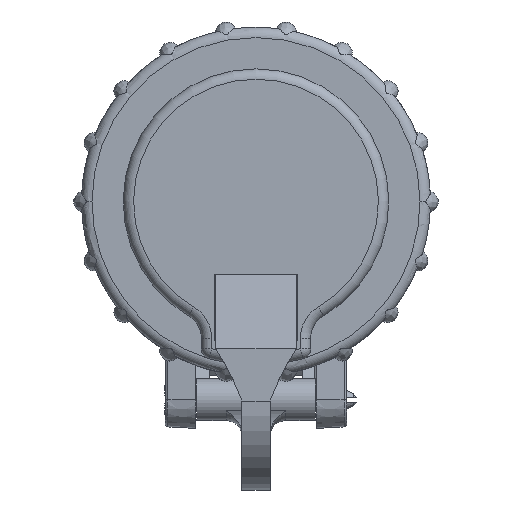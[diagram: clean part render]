
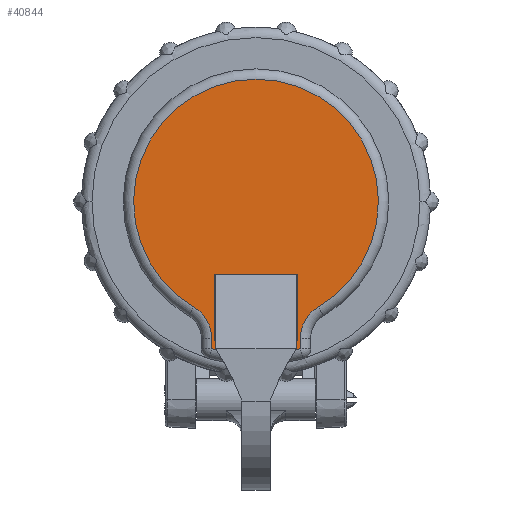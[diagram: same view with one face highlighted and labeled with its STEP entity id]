
A CAD part, top view. The second image highlights one B-rep face of the part: STEP entity #40844.
In plain terms, the highlighted planar face has unit normal (0, 0, 1).
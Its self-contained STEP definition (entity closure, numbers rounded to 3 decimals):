
#1243=CARTESIAN_POINT('',(0.,0.,13.));
#1244=DIRECTION('',(0.,0.,1.));
#1245=DIRECTION('',(-0.288,-0.958,0.));
#1246=AXIS2_PLACEMENT_3D('',#1243,#1244,#1245);
#1275=DIRECTION('',(0.,-1.,0.));
#1276=VECTOR('',#1275,12.605);
#1277=CARTESIAN_POINT('',(8.,-14.,13.));
#1278=LINE('5305',#1277,#1276);
#1282=DIRECTION('',(1.,0.,0.));
#1283=VECTOR('',#1282,16.);
#1284=CARTESIAN_POINT('',(-8.,-14.,13.));
#1285=LINE('5308',#1284,#1283);
#1289=DIRECTION('',(0.,-1.,0.));
#1290=VECTOR('',#1289,12.605);
#1291=CARTESIAN_POINT('',(-8.,-14.,13.));
#1292=LINE('5306',#1291,#1290);
#1296=DIRECTION('',(1.,0.,0.));
#1297=VECTOR('',#1296,16.);
#1298=CARTESIAN_POINT('',(-8.,-26.605,13.));
#1299=LINE('5307',#1298,#1297);
#1303=CARTESIAN_POINT('',(0.,0.,13.));
#1304=DIRECTION('',(0.,0.,1.));
#1305=DIRECTION('',(0.508,-0.861,0.));
#1306=AXIS2_PLACEMENT_3D('',#1303,#1304,#1305);
#1327=CARTESIAN_POINT('',(-15.5,-26.268,13.));
#1328=DIRECTION('',(0.,0.,-1.));
#1329=DIRECTION('',(0.508,0.861,0.));
#1330=AXIS2_PLACEMENT_3D('',#1327,#1328,#1329);
#1351=DIRECTION('',(0.,-1.,0.));
#1352=VECTOR('',#1351,1.981);
#1353=CARTESIAN_POINT('',(-8.5,-26.268,13.));
#1354=LINE('5317',#1353,#1352);
#1455=CARTESIAN_POINT('',(15.5,-26.268,13.));
#1456=DIRECTION('',(0.,0.,-1.));
#1457=DIRECTION('',(-1.,0.,0.));
#1458=AXIS2_PLACEMENT_3D('',#1455,#1456,#1457);
#1479=DIRECTION('',(0.,1.,0.));
#1480=VECTOR('',#1479,1.981);
#1481=CARTESIAN_POINT('',(8.5,-28.249,13.));
#1482=LINE('5323',#1481,#1480);
#39724=CARTESIAN_POINT('',(8.,-14.,13.));
#39725=CARTESIAN_POINT('',(8.,-26.605,13.));
#39726=VERTEX_POINT('',#39724);
#39727=VERTEX_POINT('',#39725);
#39728=CARTESIAN_POINT('',(-8.,-14.,13.));
#39729=CARTESIAN_POINT('',(-8.,-26.605,13.));
#39730=VERTEX_POINT('',#39728);
#39731=VERTEX_POINT('',#39729);
#39736=CARTESIAN_POINT('',(11.943,-20.239,13.));
#39737=CARTESIAN_POINT('',(-11.943,-20.239,13.));
#39738=VERTEX_POINT('',#39736);
#39739=VERTEX_POINT('',#39737);
#39744=CARTESIAN_POINT('',(-8.5,-26.268,13.));
#39745=VERTEX_POINT('',#39744);
#39748=CARTESIAN_POINT('',(-8.5,-28.249,13.));
#39749=VERTEX_POINT('',#39748);
#39754=CARTESIAN_POINT('',(8.5,-28.249,13.));
#39755=VERTEX_POINT('',#39754);
#39760=CARTESIAN_POINT('',(8.5,-26.268,13.));
#39761=VERTEX_POINT('',#39760);
#40816=CARTESIAN_POINT('',(0.,0.,13.));
#40817=DIRECTION('',(0.,0.,1.));
#40818=DIRECTION('',(1.,0.,0.));
#40819=AXIS2_PLACEMENT_3D('',#40816,#40817,#40818);
#40820=PLANE('1303',#40819);
#40822=ORIENTED_EDGE('5313',*,*,#40821,.F.);
#40824=ORIENTED_EDGE('5325',*,*,#40823,.F.);
#40826=ORIENTED_EDGE('5323',*,*,#40825,.F.);
#40827=ORIENTED_EDGE('5320',*,*,#40807,.F.);
#40829=ORIENTED_EDGE('5317',*,*,#40828,.F.);
#40831=ORIENTED_EDGE('5315',*,*,#40830,.F.);
#40832=EDGE_LOOP('1303',(#40822,#40824,#40826,#40827,#40829,#40831));
#40833=FACE_OUTER_BOUND('1303',#40832,.F.);
#40835=ORIENTED_EDGE('5305',*,*,#40834,.F.);
#40837=ORIENTED_EDGE('5308',*,*,#40836,.F.);
#40839=ORIENTED_EDGE('5306',*,*,#40838,.T.);
#40841=ORIENTED_EDGE('5307',*,*,#40840,.T.);
#40842=EDGE_LOOP('1303',(#40835,#40837,#40839,#40841));
#40843=FACE_BOUND('1303',#40842,.F.);
#1247=CIRCLE('5320',#1246,29.5);
#1307=CIRCLE('5313',#1306,23.5);
#1331=CIRCLE('5315',#1330,7.);
#1459=CIRCLE('5325',#1458,7.);
#40807=EDGE_CURVE('5320',#39749,#39755,#1247,.T.);
#40821=EDGE_CURVE('5313',#39738,#39739,#1307,.T.);
#40823=EDGE_CURVE('5325',#39761,#39738,#1459,.T.);
#40825=EDGE_CURVE('5323',#39755,#39761,#1482,.T.);
#40828=EDGE_CURVE('5317',#39745,#39749,#1354,.T.);
#40830=EDGE_CURVE('5315',#39739,#39745,#1331,.T.);
#40834=EDGE_CURVE('5305',#39726,#39727,#1278,.T.);
#40836=EDGE_CURVE('5308',#39730,#39726,#1285,.T.);
#40838=EDGE_CURVE('5306',#39730,#39731,#1292,.T.);
#40840=EDGE_CURVE('5307',#39731,#39727,#1299,.T.);
#40844=ADVANCED_FACE('1303',(#40833,#40843),#40820,.T.);
